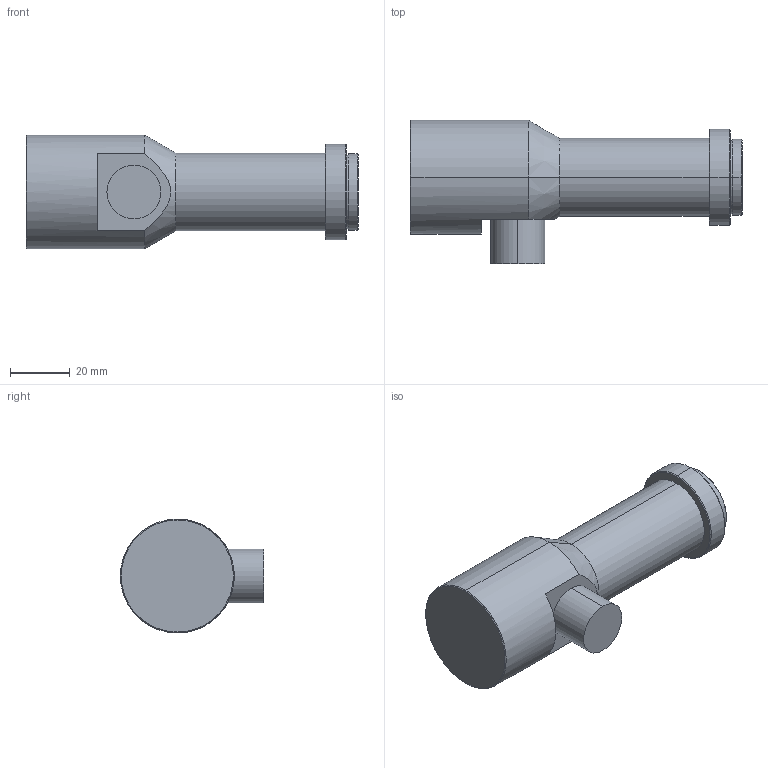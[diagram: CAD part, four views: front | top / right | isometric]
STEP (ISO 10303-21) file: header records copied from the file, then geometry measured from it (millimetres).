
FILE_DESCRIPTION (( 'STEP AP203' ), '1' );
FILE_NAME ('WWH05-65CT-5M STEPͼ.STEP', '2019-10-25T08:54:56', ( '' ), ( '' ), 'SwSTEP 2.0', 'SolidWorks 2014', '' );
FILE_SCHEMA (( 'CONFIG_CONTROL_DESIGN' ));
Length unit declared in the file: millimetre
Products named in the file (1): WWH05-65CT-5M STEPͼ
Bounding box: 110.7 x 47.8 x 38 mm (x, y, z)
Volume: 89437.8 mm3; surface area: 14086 mm2
Topology: 1 solids, 1 shells, 30 faces, 60 edges, 36 vertices
Faces by surface type: cylinder 12, cone 10, plane 8
Entity records: 886 total; most frequent: CARTESIAN_POINT 156, DIRECTION 155, ORIENTED_EDGE 120, AXIS2_PLACEMENT_3D 65, EDGE_CURVE 60, VERTEX_POINT 36, CIRCLE 34, EDGE_LOOP 34
